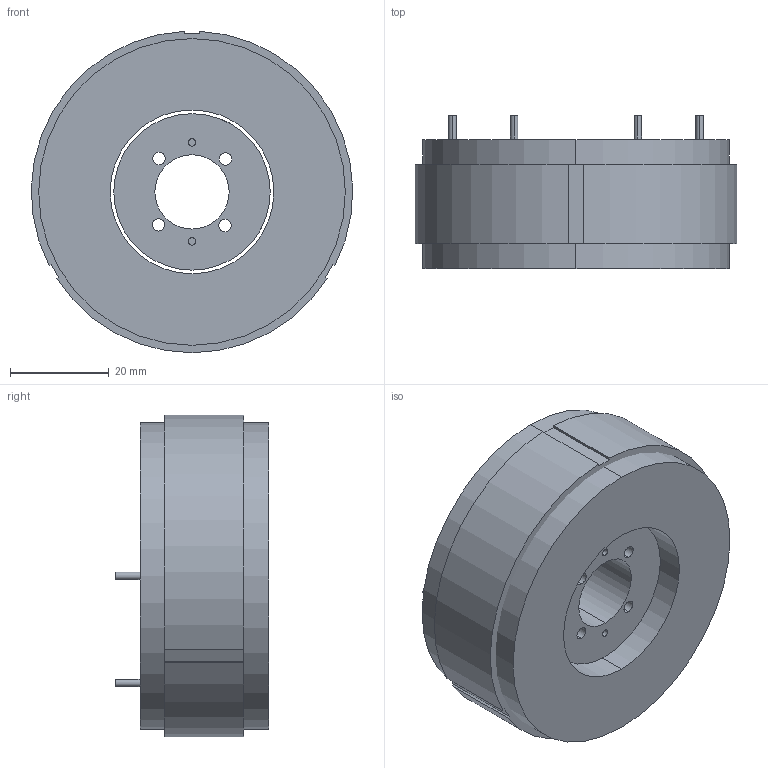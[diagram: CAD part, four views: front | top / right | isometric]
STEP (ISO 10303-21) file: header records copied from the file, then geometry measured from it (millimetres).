
FILE_DESCRIPTION (( 'STEP AP203' ), '1' );
FILE_NAME ('TMX65-25 KIT 3D.STEP', '2021-06-18T06:21:15', ( '' ), ( '' ), 'SwSTEP 2.0', 'SolidWorks 2021', '' );
FILE_SCHEMA (( 'CONFIG_CONTROL_DESIGN' ));
Length unit declared in the file: millimetre
Products named in the file (1): TMX65-25 KIT 3D
Bounding box: 64.98 x 31 x 64.96 mm (x, y, z)
Volume: 75451.2 mm3; surface area: 23925 mm2
Topology: 3 solids, 3 shells, 121 faces, 309 edges, 206 vertices
Faces by surface type: cylinder 74, plane 47
Entity records: 3840 total; most frequent: DIRECTION 709, CARTESIAN_POINT 637, ORIENTED_EDGE 618, EDGE_CURVE 309, AXIS2_PLACEMENT_3D 278, VERTEX_POINT 206, CIRCLE 156, LINE 153
